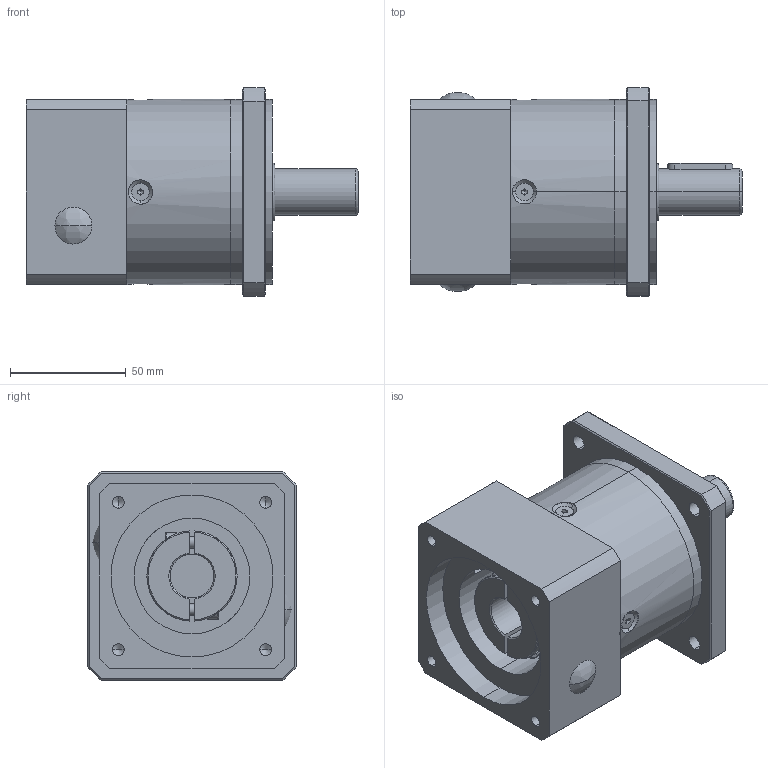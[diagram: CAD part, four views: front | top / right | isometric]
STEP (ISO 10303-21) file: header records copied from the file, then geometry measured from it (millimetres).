
FILE_DESCRIPTION (( 'STEP AP214' ), '1' );
FILE_NAME ('PLF-080-L1-S2-P2 719-70-90-M6.STEP', '2023-08-16T07:57:46', ( '微软用户' ), ( '微软中国' ), 'SwSTEP 2.0', 'SolidWorks 2018', '' );
FILE_SCHEMA (( 'AUTOMOTIVE_DESIGN' ));
Length unit declared in the file: millimetre
Products named in the file (8): PLF-080一级齿圈-外形; PLF-080-L1-S2-P2 719-70-90-M6; PF80黑裔; hexagon socket head cap screws gb_GB_FASTENER_SCREWS_HSHCS M5X16-N; hexagon socket countersunk head screws gb_GB_FASTENER_SCREWS_HSCHS M4X12-N; PLF-080怀堤傷裔-俋倛; PLF-080薊粣ん-俋倛19; PLF-080输入端盖-外形70-M6-90
Assembly tree (12 placements, depth 2):
  PLF-080-L1-S2-P2 719-70-90-M6
    PLF-080怀堤傷裔-俋倛
    PLF-080一级齿圈-外形
    PLF-080输入端盖-外形70-M6-90
    PLF-080薊粣ん-俋倛19
    hexagon socket countersunk head screws gb_GB_FASTENER_SCREWS_HSCHS M4X12-N  x4
    PF80黑裔  x2
    hexagon socket head cap screws gb_GB_FASTENER_SCREWS_HSHCS M5X16-N  x2
Bounding box: 143.5 x 90 x 90 mm (x, y, z)
Volume: 421355 mm3; surface area: 94636.2 mm2
Topology: 13 solids, 13 shells, 379 faces, 898 edges, 543 vertices
Faces by surface type: plane 148, cylinder 130, cone 71, bspline 30
Entity records: 8956 total; most frequent: CARTESIAN_POINT 2647, DIRECTION 1289, ORIENTED_EDGE 1204, EDGE_CURVE 602, AXIS2_PLACEMENT_3D 509, VERTEX_POINT 379, EDGE_LOOP 305, VECTOR 271
